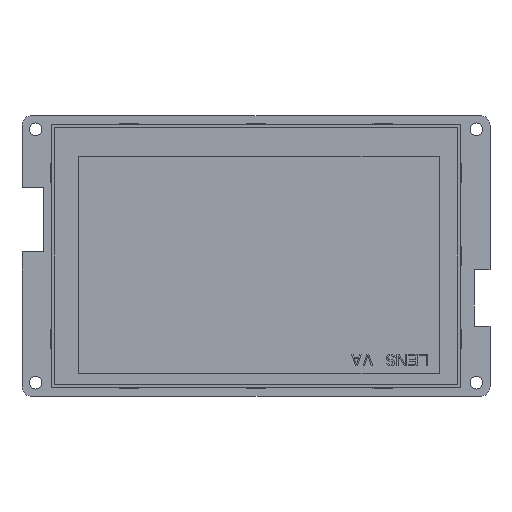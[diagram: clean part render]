
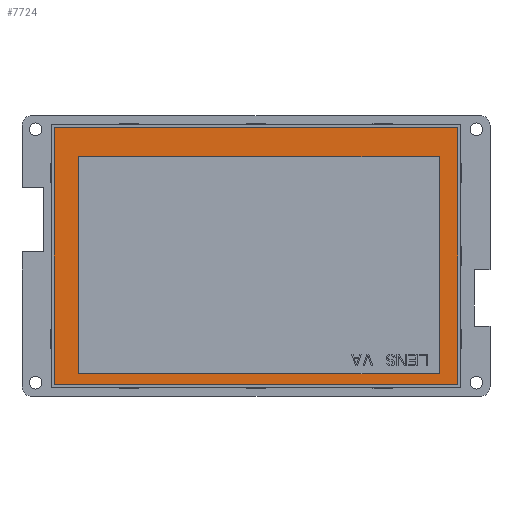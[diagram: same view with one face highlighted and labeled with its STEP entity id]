
A CAD part, front view. The second image highlights one B-rep face of the part: STEP entity #7724.
In plain terms, the highlighted planar face has unit normal (0, -1, 0).
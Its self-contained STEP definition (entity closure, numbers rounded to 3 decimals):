
#5699=CARTESIAN_POINT('',(52.3,0.,-33.2));
#5700=DIRECTION('',(0.,-1.,0.));
#5701=DIRECTION('',(0.,0.,-1.));
#5702=AXIS2_PLACEMENT_3D('',#5699,#5700,#5701);
#5704=DIRECTION('',(-1.,0.,0.));
#5705=VECTOR('',#5704,104.6);
#5706=CARTESIAN_POINT('',(52.3,0.,-33.5));
#5707=LINE('',#5706,#5705);
#5708=CARTESIAN_POINT('',(-52.3,0.,-33.2));
#5709=DIRECTION('',(0.,-1.,0.));
#5710=DIRECTION('',(-1.,0.,0.));
#5711=AXIS2_PLACEMENT_3D('',#5708,#5709,#5710);
#5713=DIRECTION('',(0.,0.,1.));
#5714=VECTOR('',#5713,66.4);
#5715=CARTESIAN_POINT('',(-52.6,0.,-33.2));
#5716=LINE('',#5715,#5714);
#5717=CARTESIAN_POINT('',(-52.3,0.,33.2));
#5718=DIRECTION('',(0.,-1.,0.));
#5719=DIRECTION('',(0.,0.,1.));
#5720=AXIS2_PLACEMENT_3D('',#5717,#5718,#5719);
#5722=DIRECTION('',(1.,0.,0.));
#5723=VECTOR('',#5722,104.6);
#5724=CARTESIAN_POINT('',(-52.3,0.,33.5));
#5725=LINE('',#5724,#5723);
#5726=CARTESIAN_POINT('',(52.3,0.,33.2));
#5727=DIRECTION('',(0.,-1.,0.));
#5728=DIRECTION('',(1.,0.,0.));
#5729=AXIS2_PLACEMENT_3D('',#5726,#5727,#5728);
#5731=DIRECTION('',(0.,0.,-1.));
#5732=VECTOR('',#5731,66.4);
#5733=CARTESIAN_POINT('',(52.6,0.,33.2));
#5734=LINE('',#5733,#5732);
#5735=DIRECTION('',(-1.,0.,0.));
#5736=VECTOR('',#5735,94.);
#5737=CARTESIAN_POINT('',(46.28,0.,30.65));
#5738=LINE('',#5737,#5736);
#5739=DIRECTION('',(0.,0.,-1.));
#5740=VECTOR('',#5739,56.56);
#5741=CARTESIAN_POINT('',(-47.72,0.,30.65));
#5742=LINE('',#5741,#5740);
#5743=DIRECTION('',(1.,0.,0.));
#5744=VECTOR('',#5743,94.);
#5745=CARTESIAN_POINT('',(-47.72,0.,-25.91));
#5746=LINE('',#5745,#5744);
#5747=DIRECTION('',(0.,0.,1.));
#5748=VECTOR('',#5747,56.56);
#5749=CARTESIAN_POINT('',(46.28,0.,-25.91));
#5750=LINE('',#5749,#5748);
#7195=CARTESIAN_POINT('',(52.3,0.,-33.5));
#7196=CARTESIAN_POINT('',(52.6,0.,-33.2));
#7197=VERTEX_POINT('',#7195);
#7198=VERTEX_POINT('',#7196);
#7199=CARTESIAN_POINT('',(-52.6,0.,-33.2));
#7200=CARTESIAN_POINT('',(-52.3,0.,-33.5));
#7201=VERTEX_POINT('',#7199);
#7202=VERTEX_POINT('',#7200);
#7203=CARTESIAN_POINT('',(52.6,0.,33.2));
#7204=CARTESIAN_POINT('',(52.3,0.,33.5));
#7205=VERTEX_POINT('',#7203);
#7206=VERTEX_POINT('',#7204);
#7207=CARTESIAN_POINT('',(-52.3,0.,33.5));
#7208=CARTESIAN_POINT('',(-52.6,0.,33.2));
#7209=VERTEX_POINT('',#7207);
#7210=VERTEX_POINT('',#7208);
#7483=CARTESIAN_POINT('',(46.28,0.,30.65));
#7484=CARTESIAN_POINT('',(-47.72,0.,30.65));
#7485=VERTEX_POINT('',#7483);
#7486=VERTEX_POINT('',#7484);
#7487=CARTESIAN_POINT('',(-47.72,0.,-25.91));
#7488=VERTEX_POINT('',#7487);
#7489=CARTESIAN_POINT('',(46.28,0.,-25.91));
#7490=VERTEX_POINT('',#7489);
#7691=CARTESIAN_POINT('',(0.,0.,0.));
#7692=DIRECTION('',(0.,1.,0.));
#7693=DIRECTION('',(1.,0.,0.));
#7694=AXIS2_PLACEMENT_3D('',#7691,#7692,#7693);
#7695=PLANE('',#7694);
#7697=ORIENTED_EDGE('',*,*,#7696,.F.);
#7699=ORIENTED_EDGE('',*,*,#7698,.T.);
#7701=ORIENTED_EDGE('',*,*,#7700,.F.);
#7703=ORIENTED_EDGE('',*,*,#7702,.T.);
#7705=ORIENTED_EDGE('',*,*,#7704,.F.);
#7707=ORIENTED_EDGE('',*,*,#7706,.T.);
#7709=ORIENTED_EDGE('',*,*,#7708,.F.);
#7711=ORIENTED_EDGE('',*,*,#7710,.T.);
#7712=EDGE_LOOP('',(#7697,#7699,#7701,#7703,#7705,#7707,#7709,#7711));
#7713=FACE_OUTER_BOUND('',#7712,.F.);
#7715=ORIENTED_EDGE('',*,*,#7714,.T.);
#7717=ORIENTED_EDGE('',*,*,#7716,.T.);
#7719=ORIENTED_EDGE('',*,*,#7718,.T.);
#7721=ORIENTED_EDGE('',*,*,#7720,.T.);
#7722=EDGE_LOOP('',(#7715,#7717,#7719,#7721));
#7723=FACE_BOUND('',#7722,.F.);
#5703=CIRCLE('',#5702,0.3);
#5712=CIRCLE('',#5711,0.3);
#5721=CIRCLE('',#5720,0.3);
#5730=CIRCLE('',#5729,0.3);
#7696=EDGE_CURVE('',#7197,#7198,#5703,.T.);
#7698=EDGE_CURVE('',#7197,#7202,#5707,.T.);
#7700=EDGE_CURVE('',#7201,#7202,#5712,.T.);
#7702=EDGE_CURVE('',#7201,#7210,#5716,.T.);
#7704=EDGE_CURVE('',#7209,#7210,#5721,.T.);
#7706=EDGE_CURVE('',#7209,#7206,#5725,.T.);
#7708=EDGE_CURVE('',#7205,#7206,#5730,.T.);
#7710=EDGE_CURVE('',#7205,#7198,#5734,.T.);
#7714=EDGE_CURVE('',#7485,#7486,#5738,.T.);
#7716=EDGE_CURVE('',#7486,#7488,#5742,.T.);
#7718=EDGE_CURVE('',#7488,#7490,#5746,.T.);
#7720=EDGE_CURVE('',#7490,#7485,#5750,.T.);
#7724=ADVANCED_FACE('',(#7713,#7723),#7695,.F.);
